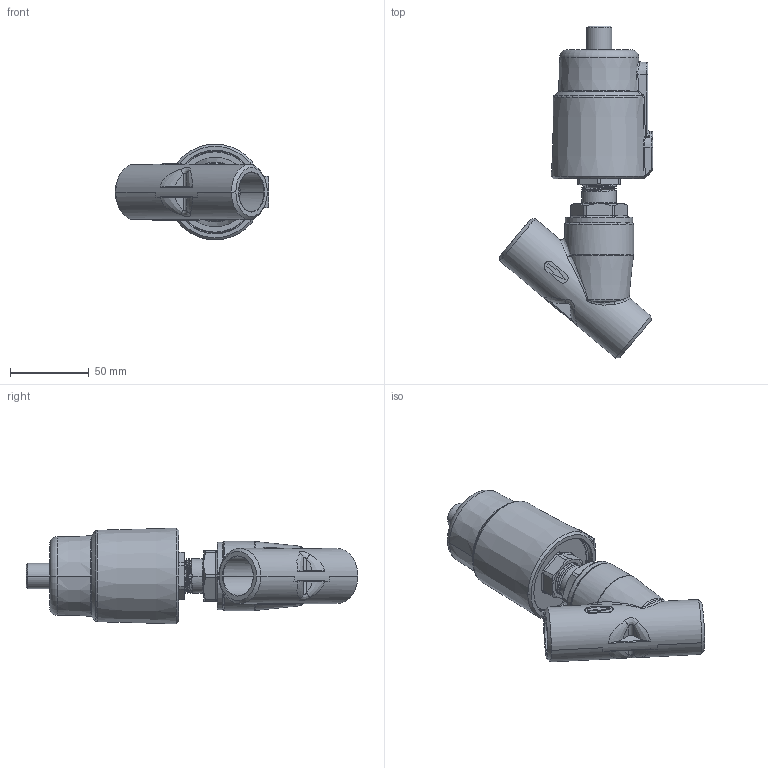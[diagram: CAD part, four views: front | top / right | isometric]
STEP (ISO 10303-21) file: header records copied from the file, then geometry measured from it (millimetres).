
FILE_DESCRIPTION((''),'2;1');
FILE_NAME('5025HANJIE_ASM','2017-11-24T',('Administrator'),(''),'PRO/ENGINEER BY PARAMETRIC TECHNOLOGY CORPORATION, 2009440','PRO/ENGINEER BY PARAMETRIC TECHNOLOGY CORPORATION, 2009440','');
FILE_SCHEMA(('CONFIG_CONTROL_DESIGN'));
Length unit declared in the file: millimetre
Products named in the file (6): 500001GANGTONG; 500002DUANGAI; 560001SHICHUANG; 502502LIANJIE; DN25; 5025HANJIE_ASM
Assembly tree (5 placements, depth 2):
  5025HANJIE_ASM
    500001GANGTONG
    500002DUANGAI
    560001SHICHUANG
    502502LIANJIE
    DN25
Bounding box: 97.39 x 211.06 x 60.92 mm (x, y, z)
Volume: 173060.8 mm3; surface area: 82899.2 mm2
Topology: 5 solids, 5 shells, 851 faces, 2192 edges, 1391 vertices
Faces by surface type: plane 430, cylinder 174, bspline 102, cone 80, torus 61, sphere 4
Entity records: 42041 total; most frequent: CARTESIAN_POINT 22103, ORIENTED_EDGE 4384, DIRECTION 3675, EDGE_CURVE 2192, VERTEX_POINT 1391, VECTOR 1339, LINE 1339, AXIS2_PLACEMENT_3D 1168
